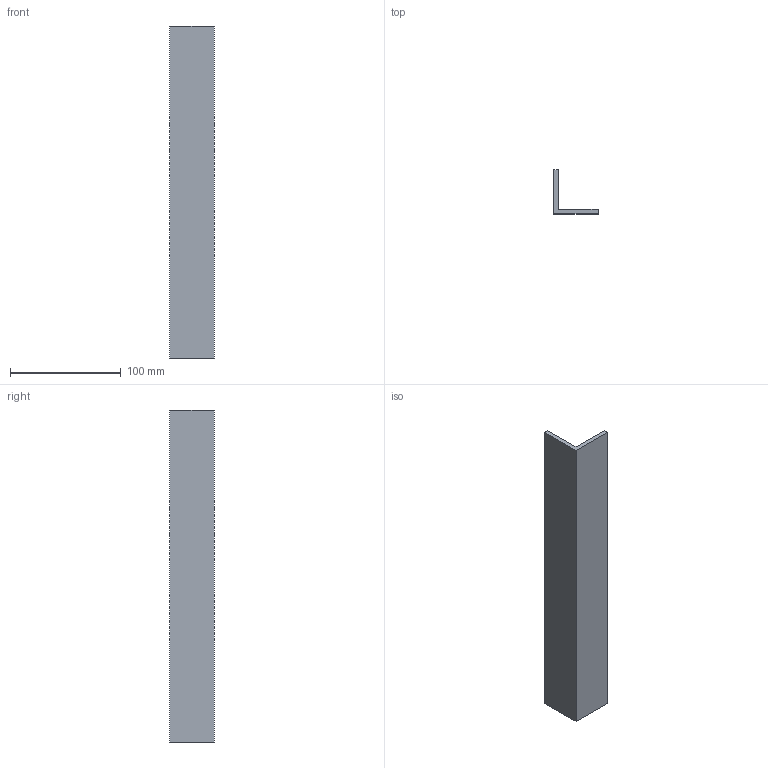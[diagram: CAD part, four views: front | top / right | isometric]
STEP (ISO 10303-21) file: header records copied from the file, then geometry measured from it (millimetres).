
FILE_DESCRIPTION (( 'STEP AP203' ), '1' );
FILE_NAME ('47-4-40-40褒臏.STEP', '2015-07-07T03:59:41', ( '' ), ( '' ), 'SwSTEP 2.0', 'SolidWorks 2013', '' );
FILE_SCHEMA (( 'CONFIG_CONTROL_DESIGN' ));
Length unit declared in the file: millimetre
Products named in the file (1): 47-4-40-40褒臏
Bounding box: 40 x 40 x 300 mm (x, y, z)
Volume: 91200 mm3; surface area: 48608 mm2
Topology: 1 solids, 1 shells, 8 faces, 18 edges, 12 vertices
Faces by surface type: plane 8
Entity records: 299 total; most frequent: CARTESIAN_POINT 39, ORIENTED_EDGE 36, DIRECTION 36, EDGE_CURVE 18, LINE 18, VECTOR 18, VERTEX_POINT 12, AXIS2_PLACEMENT_3D 9
